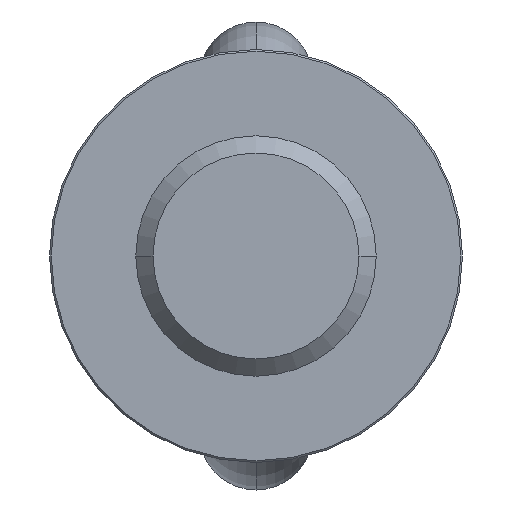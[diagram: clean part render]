
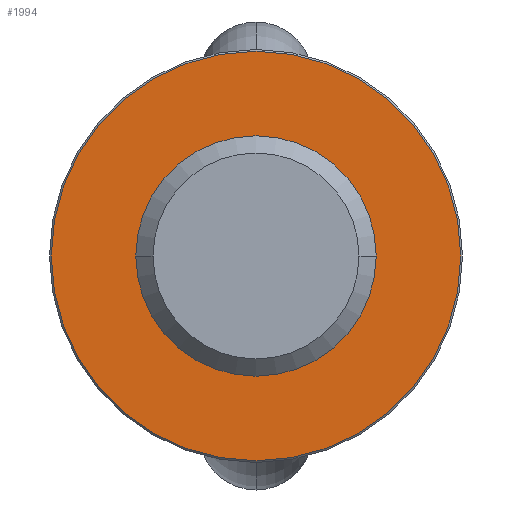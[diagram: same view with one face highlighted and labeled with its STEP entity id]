
A CAD part, front view. The second image highlights one B-rep face of the part: STEP entity #1994.
In plain terms, the highlighted planar face has unit normal (0, -1, 0).
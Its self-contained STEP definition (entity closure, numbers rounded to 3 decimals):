
#5=CARTESIAN_POINT('',(0.,0.,0.));
#6=DIRECTION('',(0.,1.,0.));
#7=DIRECTION('',(1.,0.,0.));
#8=AXIS2_PLACEMENT_3D('',#5,#6,#7);
#14=CARTESIAN_POINT('',(0.,0.,0.));
#15=DIRECTION('',(0.,-1.,0.));
#16=DIRECTION('',(1.,0.,0.));
#17=AXIS2_PLACEMENT_3D('',#14,#15,#16);
#52=CARTESIAN_POINT('',(0.,0.,0.));
#53=DIRECTION('',(0.,-1.,0.));
#54=DIRECTION('',(1.,0.,0.));
#55=AXIS2_PLACEMENT_3D('',#52,#53,#54);
#1512=CARTESIAN_POINT('',(0.,0.,0.));
#1513=DIRECTION('',(0.,1.,0.));
#1514=DIRECTION('',(1.,0.,0.));
#1515=AXIS2_PLACEMENT_3D('',#1512,#1513,#1514);
#1565=CARTESIAN_POINT('',(59.5,0.,0.));
#1566=CARTESIAN_POINT('',(-59.5,0.,0.));
#1567=VERTEX_POINT('',#1565);
#1568=VERTEX_POINT('',#1566);
#1621=CARTESIAN_POINT('',(34.925,0.,0.));
#1623=VERTEX_POINT('',#1621);
#1627=CARTESIAN_POINT('',(-34.925,0.,0.));
#1629=VERTEX_POINT('',#1627);
#1977=CARTESIAN_POINT('',(0.,0.,0.));
#1978=DIRECTION('',(0.,-1.,0.));
#1979=DIRECTION('',(-1.,0.,0.));
#1980=AXIS2_PLACEMENT_3D('',#1977,#1978,#1979);
#1981=PLANE('',#1980);
#1983=ORIENTED_EDGE('',*,*,#1982,.F.);
#1985=ORIENTED_EDGE('',*,*,#1984,.T.);
#1986=EDGE_LOOP('',(#1983,#1985));
#1987=FACE_OUTER_BOUND('',#1986,.F.);
#1989=ORIENTED_EDGE('',*,*,#1988,.F.);
#1991=ORIENTED_EDGE('',*,*,#1990,.T.);
#1992=EDGE_LOOP('',(#1989,#1991));
#1993=FACE_BOUND('',#1992,.F.);
#1994=ADVANCED_FACE('',(#1987,#1993),#1981,.T.);
#9=CIRCLE('',#8,34.925);
#18=CIRCLE('',#17,34.925);
#56=CIRCLE('',#55,59.5);
#1516=CIRCLE('',#1515,59.5);
#1982=EDGE_CURVE('',#1567,#1568,#56,.T.);
#1984=EDGE_CURVE('',#1567,#1568,#1516,.T.);
#1988=EDGE_CURVE('',#1623,#1629,#9,.T.);
#1990=EDGE_CURVE('',#1623,#1629,#18,.T.);
